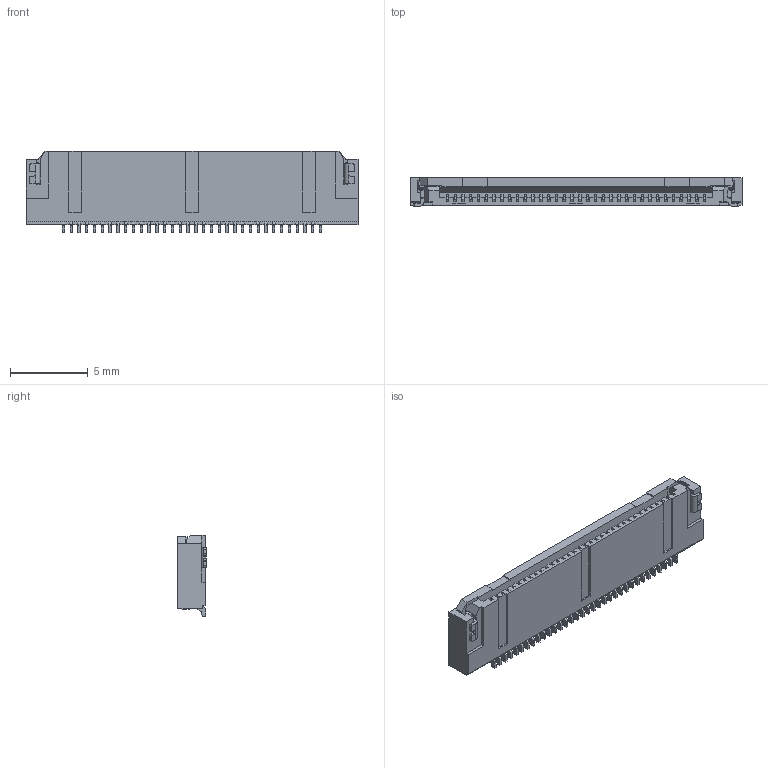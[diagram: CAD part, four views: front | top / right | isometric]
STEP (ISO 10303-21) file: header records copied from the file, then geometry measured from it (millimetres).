
FILE_DESCRIPTION(/* description */ (''),/* implementation_level */ '2;1');
FILE_NAME(/* name */ 'S-52565-034xx-Vxx',/* time_stamp */ '2023-04-21T13:51:20+08:00',/* author */ (''),/* organization */ ('ACES'),/* preprocessor_version */ 'ST-DEVELOPER v16.7',/* originating_system */ 'DEX',/* authorisation */ $);
FILE_SCHEMA (('AUTOMOTIVE_DESIGN {1 0 10303 214 3 1 1}'));
Products named in the file (1): S-52565-034xx-Vxx
Bounding box: 21.3 x 1.84 x 5.2 mm (x, y, z)
Volume: 108.5 mm3; surface area: 737.8 mm2
Topology: 1 solids, 1 shells, 2293 faces, 7211 edges, 4992 vertices
Faces by surface type: plane 1633, cylinder 656, torus 4
Full cylindrical faces by diameter (mm): 0.5 x2
Entity records: 80121 total; most frequent: CARTESIAN_POINT 14223, ORIENTED_EDGE 14118, DIRECTION 13179, EDGE_CURVE 7059, LINE 5811, VECTOR 5811, VERTEX_POINT 4700, AXIS2_PLACEMENT_3D 3684
